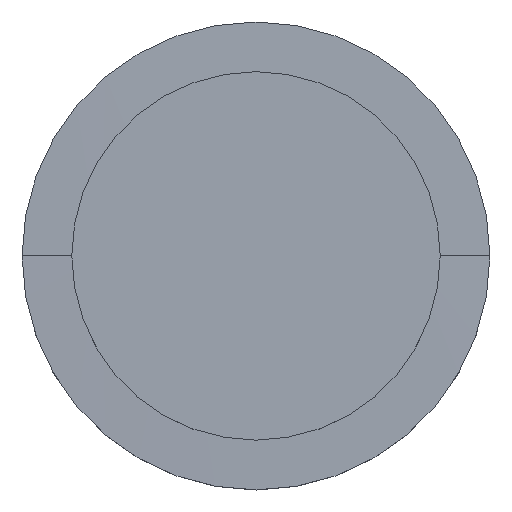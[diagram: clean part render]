
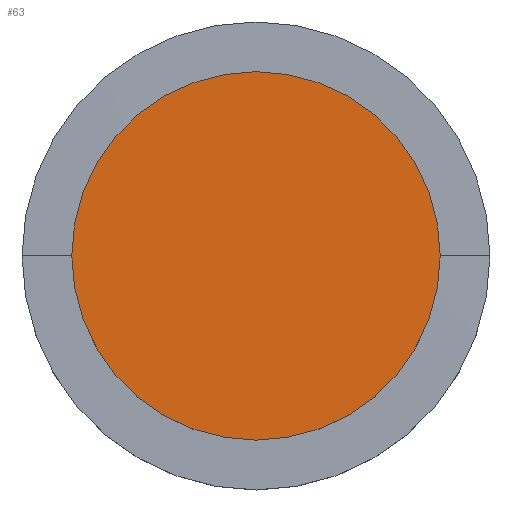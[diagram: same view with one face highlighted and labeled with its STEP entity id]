
A CAD part, top view. The second image highlights one B-rep face of the part: STEP entity #63.
In plain terms, the highlighted planar face has unit normal (0, 0, 1).
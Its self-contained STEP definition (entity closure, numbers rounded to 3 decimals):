
#63=ADVANCED_FACE('',(#83),#84,.T.);
#83=FACE_OUTER_BOUND('',#103,.T.);
#84=PLANE('',#104);
#103=EDGE_LOOP('',(#162,#163));
#104=AXIS2_PLACEMENT_3D('',#164,#165,#166);
#162=ORIENTED_EDGE('',*,*,#180,.T.);
#163=ORIENTED_EDGE('',*,*,#181,.T.);
#164=CARTESIAN_POINT('',(0.0,0.0,6.0));
#165=DIRECTION('',(0.0,0.0,1.0));
#166=DIRECTION('',(1.0,0.0,0.0));
#180=EDGE_CURVE('',#200,#204,#206,.T.);
#181=EDGE_CURVE('',#204,#200,#207,.T.);
#200=VERTEX_POINT('',#228);
#204=VERTEX_POINT('',#233);
#206=CIRCLE('',#236,10.0);
#207=CIRCLE('',#237,10.0);
#228=CARTESIAN_POINT('',(10.0,0.0,6.0));
#233=CARTESIAN_POINT('',(-10.0,0.,6.0));
#236=AXIS2_PLACEMENT_3D('',#270,#271,#272);
#237=AXIS2_PLACEMENT_3D('',#273,#274,#275);
#270=CARTESIAN_POINT('',(0.0,0.0,6.0));
#271=DIRECTION('',(0.0,0.0,1.0));
#272=DIRECTION('',(1.0,0.0,0.0));
#273=CARTESIAN_POINT('',(0.0,0.0,6.0));
#274=DIRECTION('',(0.0,0.0,1.0));
#275=DIRECTION('',(1.0,0.0,0.0));
